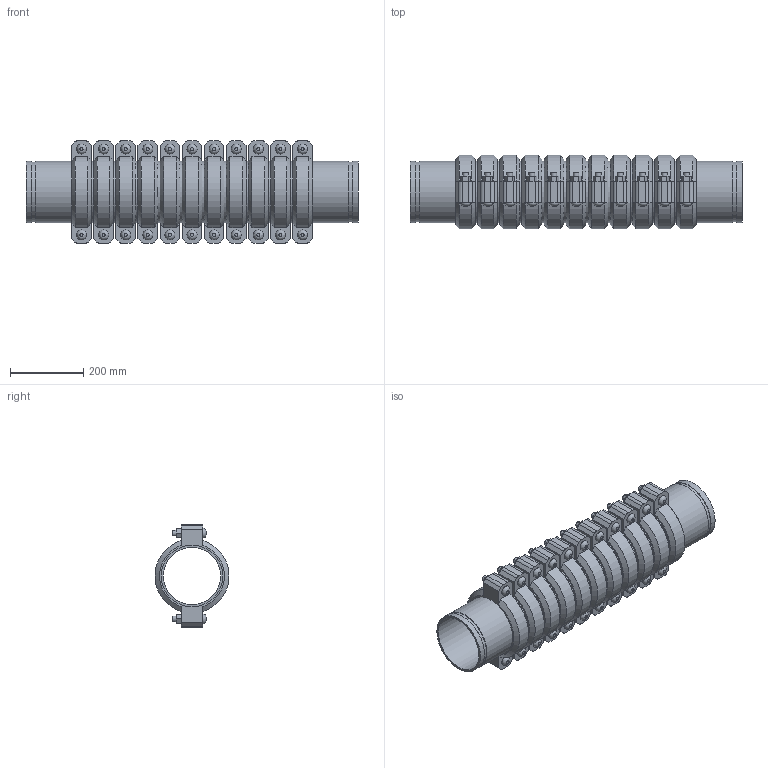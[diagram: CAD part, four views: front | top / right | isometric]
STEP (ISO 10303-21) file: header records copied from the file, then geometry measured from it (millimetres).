
FILE_DESCRIPTION(/* description */ ('VIC EXPANSION JOINT 11 COUPLINGS COMPRESSED STYLE 155 (OGS)','CAx-IF Rec.Pracs.---Representation and Presentation of Product Manufacturing Information (PMI)---4.0---2014-10-13'),/* implementation_level */ '2;1');
FILE_NAME(/* name */ 'C:\Users\kkamble\AppData\Roaming\Autodesk\ApplicationPlugins\Victaulic.Temp\A956\Victaulic_IPS_Expansion Joint_Compressed_11 Couplings_Style 155 (OGS)_6 (150).stp',/* time_stamp */ '2021-06-27T00:19:20+02:00',/* author */ ('kkamble'),/* organization */ ('Victaulic'),/* preprocessor_version */ 'ST-DEVELOPER v17.2',/* originating_system */ 'Autodesk Inventor 2019',/* authorisation */ '');
FILE_SCHEMA (('AP242_MANAGED_MODEL_BASED_3D_ENGINEERING_MIM_LF { 1 0 10303 442 1 1 4 }'));
Length unit declared in the file: inch
Products named in the file (4): 155-06.0; Nipple-06.0; Nipple-06.0_1; 075_11_Coup-06.0
Assembly tree (23 placements, depth 2):
  155-06.0
    Nipple-06.0  x2
    Nipple-06.0_1  x10
    075_11_Coup-06.0  x11
Bounding box: 908.56 x 202.46 x 281.18 mm (x, y, z)
Volume: 10565783.2 mm3; surface area: 2288920.4 mm2
Topology: 23 solids, 45 shells, 771 faces, 1823 edges, 1278 vertices
Faces by surface type: plane 468, cylinder 237, cone 44, bspline 22
Full cylindrical faces by diameter (mm): 15.875 x44, 17.424 x22, 157.15 x12, 161.925 x11, 163.957 x24, 168.275 x58
Entity records: 2906 total; most frequent: CARTESIAN_POINT 507, DIRECTION 489, ORIENTED_EDGE 386, AXIS2_PLACEMENT_3D 198, EDGE_CURVE 193, VERTEX_POINT 138, EDGE_LOOP 107, LINE 93
